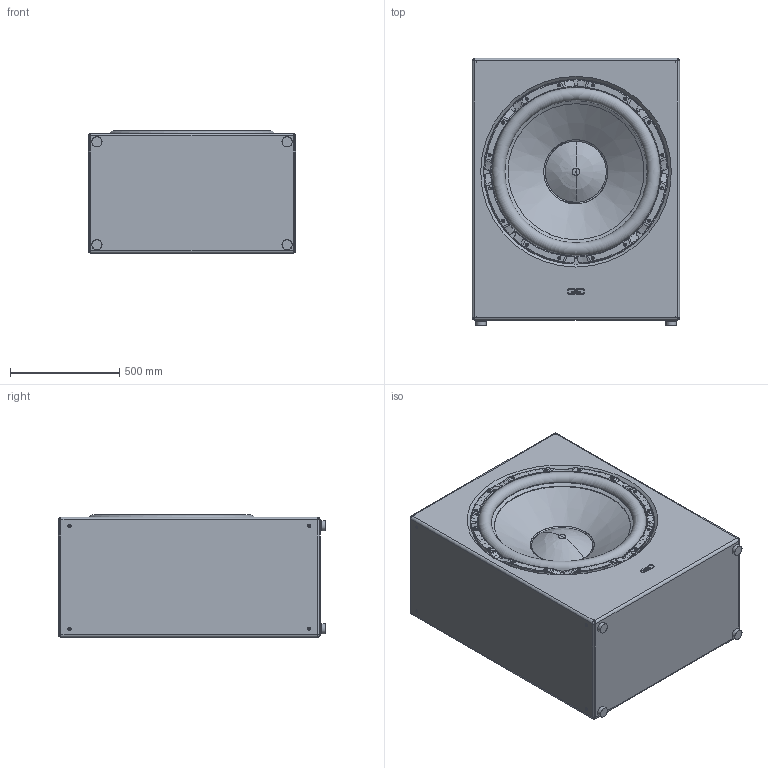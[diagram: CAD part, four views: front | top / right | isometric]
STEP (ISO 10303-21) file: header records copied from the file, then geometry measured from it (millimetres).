
FILE_DESCRIPTION(/* description */ (''),/* implementation_level */ '2;1');
FILE_NAME(/* name */ 'THE32 SUB PRO ACTIVE SEALED_Public_SI_Plug.step',/* time_stamp */ '2025-03-28T14:53:43+01:00',/* author */ (''),/* organization */ (''),/* preprocessor_version */ 'ST-DEVELOPER v20.1',/* originating_system */ 'Autodesk Translation Framework v14.4.0.0',/* authorisation */ '');
FILE_SCHEMA (('AUTOMOTIVE_DESIGN { 1 0 10303 214 3 1 1 }'));
Products named in the file (4): The32 SUB PRO PASSIVE SEALED; COMBINE_FullSpeaker_withNamePlate; Feet; 30010466
Assembly tree (3 placements, depth 2):
  The32 SUB PRO PASSIVE SEALED
    COMBINE_FullSpeaker_withNamePlate
    Feet
    30010466
Bounding box: 950 x 1225 x 561.7 mm (x, y, z)
Volume: 587675882.6 mm3; surface area: 5656363.5 mm2
Topology: 6 solids, 111 shells, 4357 faces, 10960 edges, 7206 vertices
Faces by surface type: plane 2473, cylinder 1035, bspline 663, cone 99, torus 68, sphere 19
Full cylindrical faces by diameter (mm): 1.5 x6, 2.38 x3, 3.5 x1, 4 x12, 4.5 x1, 6 x2, 6.701 x8, 8 x24, 8.099 x8, 8.2 x8, 12.4 x12, 12.5 x12, 13 x16, 14 x24, 18 x2, 19 x1, 20.3 x1, 22 x2, 23 x1, 47 x4, 623.36 x1, 652 x1, 772 x1, 774.6 x1
Entity records: 163127 total; most frequent: CARTESIAN_POINT 59796, ORIENTED_EDGE 21896, DIRECTION 20188, EDGE_CURVE 10948, VERTEX_POINT 7206, LINE 6804, VECTOR 6804, AXIS2_PLACEMENT_3D 6692
